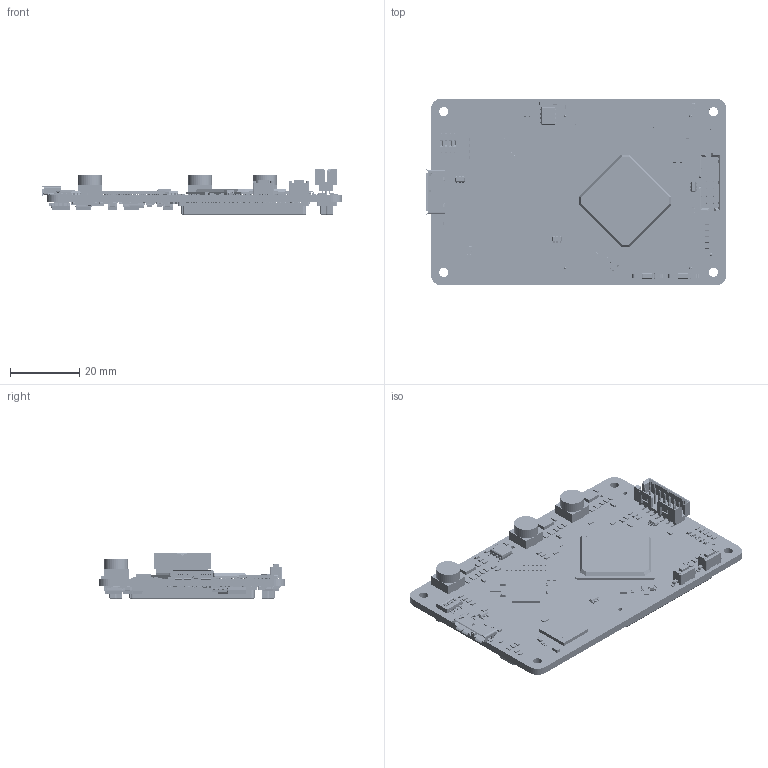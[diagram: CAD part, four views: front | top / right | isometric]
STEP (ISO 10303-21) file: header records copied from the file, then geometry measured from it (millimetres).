
FILE_DESCRIPTION(/* description */ ('PCB Design'),/* implementation_level */ '2;1');
FILE_NAME(/* name */ 'u3_main_board_solder',/* time_stamp */ '2016-05-10T16:41:43+08:00',/* author */ (''),/* organization */ (''),/* preprocessor_version */ 'ST-DEVELOPER v16',/* originating_system */ 'allegro_17.0S005',/* authorisation */ '');
FILE_SCHEMA (('AUTOMOTIVE_DESIGN { 1 0 10303 214 3 1 1 }'));
Length unit declared in the file: millimetre
Products named in the file (160): U3_MAIN_BOARD_SOLDER; BOARD; COMPONENTS; SOT-23-MAX6823; SMA-MBRA340T3G; VSON-10-TPS51200; C0402; CONF_SMT_HOLE; USB3_MICROB_TH; L-SLF7055T; FB0805; C0805; FB0603; QFN-20-TPS7A7200; QFN-4-ASEMB; QFN-6-ASEMPLV; C1206; UDFN-10-SP3012; SOIC-8-ATSHA204A; SOIC-8-TL7705AID; SO8W-N25Q064A11ESE40G; SON-6-TPS25200DRV; SW_SSSS8; SOT-23-NDS331N; C1210; SOD-123-MMSZ4678T1G; SW-RS-282G05A3; FGG484-XC6SLX45; BGA121-CYUSB3014; SW-CTS-218; B2B_08_80; FBGA-96-MT41K128M16; EMIF-0603-NFM18PC; DFN-8-ST1S10; EMIF-0603-NFM18PS; R0402; C0603; LED0603; R0603; SOT23-6-SRV05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
Assembly tree (753 placements, depth 7):
  U3_MAIN_BOARD_SOLDER
    BOARD
    COMPONENTS
      SOT-23-MAX6823
        User Library-SOT23-5-2
      SMA-MBRA340T3G  x4
        PCB
        Designator1
          1404345224
            Body
              Open_CASCADE_STEP_translator_6.8_160.1.1
            Lead  x2
      VSON-10-TPS51200
        SW3dPS-SON10-3x3mm
      C0402  x77
        User Library-SMD CAPACITOR
      CONF_SMT_HOLE
        8783214201
      USB3_MICROB_TH
        Assem1|insulator;insulator
        Assem1|pin;pin
        Assem1|pin;pin
        Assem1|pin;pin
        Assem1|pin;pin
        Assem1|pin;pin
        Assem1|pin;pin
        Assem1|pin;pin
        Assem1|pin;pin
        Assem1|pin;pin
        Assem1|pin;pin
        Assem1|shileding;shileding
      L-SLF7055T  x3
        PCB
        Designator1
          1404344544
            body
            cylinder
            pin  x2
              Open_CASCADE_STEP_translator_6.8_108.3.1
      FB0805  x2
        User Library-ind_0805
      C0805  x15
        User Library-SMD CAPACITOR
      FB0603  x4
        User Library-res0603-1
      QFN-20-TPS7A7200  x2
        PCB
        Designator1
          1404341960
            Open_CASCADE_STEP_translator_6.8_67.1
            Body
              Open_CASCADE_STEP_translator_6.8_67.2.1
            Thermal_Shape
            Pin_Shape  x20
              Open_CASCADE_STEP_translator_6.8_67.4.1
      QFN-4-ASEMB
        PCB
        Designator1
          1404342504
            Open_CASCADE_STEP_translator_6.8_88.1
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Bounding box: 86.99 x 54 x 13.48 mm (x, y, z)
Volume: 4225.5 mm3; surface area: 20428.7 mm2
Topology: 1109 solids, 1126 shells, 24706 faces, 59653 edges, 35919 vertices
Faces by surface type: plane 16379, cylinder 5930, sphere 1964, bspline 369, cone 56, torus 8
Full cylindrical faces by diameter (mm): 0.138 x1, 0.263 x3, 0.394 x1, 0.5 x2, 0.512 x3, 0.644 x2, 0.688 x2, 1 x1, 7 x3
Entity records: 216499 total; most frequent: CARTESIAN_POINT 35246, DIRECTION 31246, ORIENTED_EDGE 27058, EDGE_CURVE 13551, AXIS2_PLACEMENT_3D 10881, VECTOR 10481, LINE 10481, VERTEX_POINT 8760
